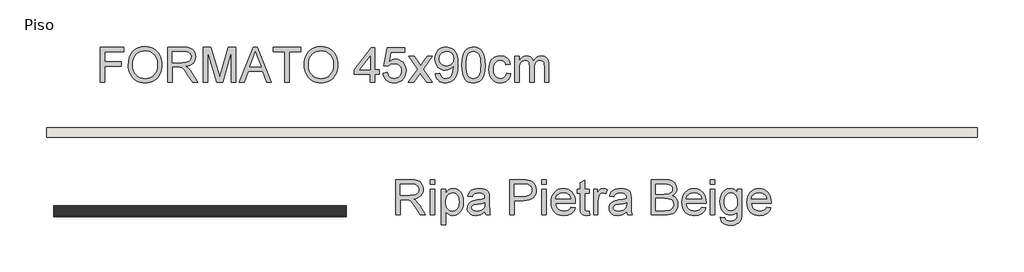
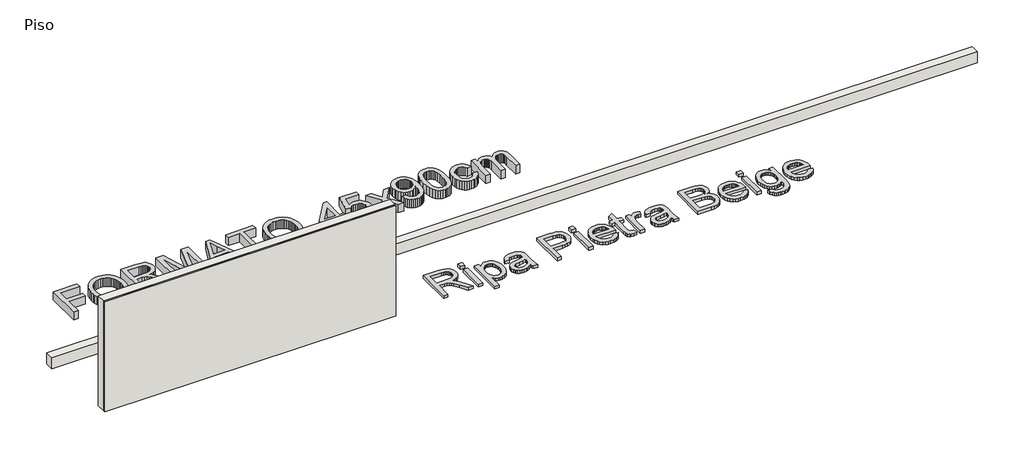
# One storey: 3 walls, 2 proxies.
"""IFC4 building model written with IfcOpenShell, lengths in millimetres."""

from ifc_helpers import new_model, si_unit, origin, origin_with_axes, place, context, project, spatial, polyline, outline, extrude, element, save

model = new_model("IFC4")

# Units and contexts
model_context = context("Model", 3, world=origin())
ifc_project = project(units=[si_unit("LENGTHUNIT", "METRE", prefix="MILLI")], contexts=[model_context])

# Site, building, storey
site = spatial("IfcSite", under=ifc_project)
building = spatial("IfcBuilding", under=site)
storey = spatial("IfcBuildingStorey", under=building, Name="Piso", Elevation=0.0)

# Proxies
placement = place(None, origin())
element("IfcBuildingElementProxy", 1, Name="600mm Arial", ObjectType="600mm Arial", at=placement, inside=storey, context=model_context, shape_type="SweptSolid", body=[
    extrude(outline(polyline([(92602.0859381, 2702.6380465), (92602.0859381, 3305.3759074), (93007.0504384, 3305.3759074), (93007.0504384, 3230.0336748), (92677.4281707, 3230.0336748), (92677.4281707, 3051.0958724), (92959.961543, 3051.0958724), (92959.961543, 2975.7536397), (92677.4281707, 2975.7536397), (92677.4281707, 2702.6380465), (92602.0859381, 2702.6380465)])), origin_with_axes(), (0.0, 0.0, 1.0), 150.0),
    extrude(outline(polyline([(93082.392671, 2996.0607259), (93087.4142602, 3066.7584483), (93102.4790279, 3129.3443727), (93127.5869741, 3183.8184992), (93143.9071391, 3208.0136381), (93162.7380987, 3230.1808276), (93205.8262774, 3267.1989534), (93254.7453857, 3293.6404718), (93309.4954237, 3309.5053828), (93370.0763912, 3314.7936865), (93410.6261841, 3312.310483), (93449.134232, 3304.8608726), (93485.6005348, 3292.4448553), (93520.0250925, 3275.062431), (93551.4422148, 3253.2378317), (93578.8862117, 3227.495289), (93602.357083, 3197.8348032), (93621.8548287, 3164.2563741), (93637.1771138, 3127.5233569), (93648.1216032, 3088.3991067), (93654.6882968, 3046.8836235), (93656.8771947, 3002.9769074), (93654.5733337, 2958.4907771), (93647.6617507, 2916.4142739), (93636.1424457, 2876.7473978), (93620.0154187, 2839.4901487), (93599.6623474, 2805.6266111), (93575.4649091, 2776.1408692), (93547.423104, 2751.032923), (93515.5369321, 2730.3027726), (93481.0617906, 2714.0791766), (93445.2530769, 2702.4908937), (93408.110791, 2695.537924), (93369.6349328, 2693.2202674), (93328.3769671, 2695.7816458), (93289.3630815, 2703.465781), (93252.5932761, 2716.272673), (93218.0675508, 2734.2023217), (93186.6872166, 2756.56035), (93159.3535844, 2782.6523805), (93136.0666541, 2812.4784132), (93116.8264257, 2846.0384482), (93101.761658, 2881.9851177), (93091.0011097, 2918.9710538), (93084.5447807, 2956.9962565), (93082.392671, 2996.0607259)]), holes=[polyline([(93157.7349036, 2995.3249619), (93161.5010955, 2945.375784), (93172.7996713, 2901.0368065), (93191.6306309, 2862.3080295), (93217.9939744, 2829.1894529), (93250.0410947, 2802.665161), (93285.9233848, 2783.7192383), (93325.6408447, 2772.3516846), (93369.1934744, 2768.5625001), (93413.4910652, 2772.3884728), (93453.6775746, 2783.8663911), (93489.7530028, 2802.9962548), (93521.7173496, 2829.7780641), (93547.8875551, 2863.5956165), (93566.5805589, 2903.8327097), (93577.7963613, 2950.4893437), (93581.5349621, 3003.5655186), (93579.9346754, 3038.0452586), (93575.1338153, 3070.2625243), (93567.1323819, 3100.2173158), (93555.9303752, 3127.9096329), (93541.6519553, 3152.9761924), (93524.4212823, 3175.0537106), (93504.2383563, 3194.1421877), (93481.1031774, 3210.2416235), (93455.7331153, 3223.0209243), (93428.84554, 3232.1489963), (93400.4404514, 3237.6258395), (93370.5178496, 3239.4514539), (93328.4781346, 3235.9335823), (93289.4734461, 3225.3799676), (93253.503784, 3207.7906097), (93220.5691484, 3183.1655086), (93193.0791663, 3150.318245), (93173.4434648, 3108.0623993), (93161.6620439, 3056.3979716), (93157.7349036, 2995.3249619)])]), origin_with_axes(), (0.0, 0.0, 1.0), 150.0),
    extrude(outline(polyline([(93760.4727645, 2702.6380465), (93760.4727645, 3305.3759074), (94020.1974531, 3305.3759074), (94090.0030617, 3301.3108114), (94140.7891711, 3289.1155232), (94160.3880844, 3279.4218327), (94177.9084644, 3266.6011451), (94193.3503112, 3250.6534606), (94206.7136247, 3231.5787792), (94217.4971656, 3210.4025718), (94225.1996949, 3188.1503097), (94229.8212125, 3164.8219926), (94231.3617183, 3140.4176208), (94228.809537, 3109.4603509), (94221.152993, 3081.0414668), (94208.3920863, 3055.1609684), (94190.5268169, 3031.8188558), (94167.3272585, 3011.76009), (94138.563485, 2995.7296321), (94104.2354964, 2983.727482), (94064.3432925, 2975.7536397), (94089.1753272, 2959.5300438), (94107.1647568, 2943.527177), (94138.0300562, 2906.9229184), (94168.233168, 2865.9776524), (94268.738529, 2702.6380465), (94181.1826142, 2702.6380465), (94102.7501728, 2827.5707721), (94046.0963456, 2910.2706446), (94025.0351013, 2934.3853094), (94006.2915137, 2949.3397125), (93970.4598074, 2963.6871103), (93926.7554263, 2966.3358607), (93835.8149971, 2966.3358607), (93835.8149971, 2702.6380465), (93760.4727645, 2702.6380465)]), holes=[polyline([(93835.8149971, 3041.6780933), (94004.4521037, 3041.6780933), (94052.8837684, 3044.3452377), (94090.4629142, 3052.3466711), (94118.7530396, 3066.2158224), (94139.3176431, 3086.4861203), (94151.8440251, 3111.0054553), (94156.0194857, 3137.6217176), (94154.0283244, 3156.8895371), (94148.0548405, 3174.3731289), (94138.099034, 3190.0724931), (94124.1609049, 3203.9876296), (94105.9185565, 3215.3827744), (94083.050092, 3223.5221635), (94055.5555114, 3228.405797), (94023.4348147, 3230.0336748), (93835.8149971, 3230.0336748), (93835.8149971, 3041.6780933)])]), origin_with_axes(), (0.0, 0.0, 1.0), 150.0),
    extrude(outline(polyline([(94363.2106254, 2702.6380465), (94363.2106254, 3305.3759074), (94492.8522405, 3305.3759074), (94616.1662853, 2880.5457794), (94641.0351082, 2791.8126422), (94667.9640702, 2887.9034193), (94789.2179758, 3305.3759074), (94918.8595909, 3305.3759074), (94918.8595909, 2702.6380465), (94843.5173583, 2702.6380465), (94843.5173583, 3230.0336748), (94692.0971291, 2702.6380465), (94589.9730872, 2702.6380465), (94438.552858, 3230.0336748), (94438.552858, 2702.6380465), (94363.2106254, 2702.6380465)])), origin_with_axes(), (0.0, 0.0, 1.0), 150.0),
    extrude(outline(polyline([(94980.5166133, 2702.6380465), (95221.1114382, 3305.3759074), (95285.2700581, 3305.3759074), (95525.864883, 2702.6380465), (95446.2552192, 2702.6380465), (95377.2405569, 2890.9936281), (95128.9937866, 2890.9936281), (95060.1262771, 2702.6380465), (94980.5166133, 2702.6380465)]), holes=[polyline([(95156.6585126, 2966.3358607), (95349.7229837, 2966.3358607), (95295.4236012, 3114.5187283), (95253.1907481, 3230.0336748), (95215.6667846, 3127.4681746), (95156.6585126, 2966.3358607)])]), origin_with_axes(), (0.0, 0.0, 1.0), 150.0),
    extrude(outline(polyline([(95757.0419287, 2702.6380465), (95757.0419287, 3230.0336748), (95559.2685681, 3230.0336748), (95559.2685681, 3305.3759074), (96030.1575219, 3305.3759074), (96030.1575219, 3230.0336748), (95832.3841613, 3230.0336748), (95832.3841613, 2702.6380465), (95757.0419287, 2702.6380465)])), origin_with_axes(), (0.0, 0.0, 1.0), 150.0),
    extrude(outline(polyline([(96086.6641964, 2996.0607259), (96091.6857856, 3066.7584483), (96106.7505533, 3129.3443727), (96131.8584995, 3183.8184992), (96148.1786645, 3208.0136381), (96167.0096242, 3230.1808276), (96210.0978028, 3267.1989534), (96259.0169111, 3293.6404718), (96313.7669491, 3309.5053828), (96374.3479166, 3314.7936865), (96414.8977096, 3312.310483), (96453.4057574, 3304.8608726), (96489.8720602, 3292.4448553), (96524.2966179, 3275.062431), (96555.7137403, 3253.2378317), (96583.1577371, 3227.495289), (96606.6286084, 3197.8348032), (96626.1263541, 3164.2563741), (96641.4486392, 3127.5233569), (96652.3931286, 3088.3991067), (96658.9598222, 3046.8836235), (96661.1487201, 3002.9769074), (96658.8448591, 2958.4907771), (96651.9332761, 2916.4142739), (96640.4139711, 2876.7473978), (96624.2869442, 2839.4901487), (96603.9338728, 2805.6266111), (96579.7364345, 2776.1408692), (96551.6946295, 2751.032923), (96519.8084575, 2730.3027726), (96485.3333161, 2714.0791766), (96449.5246024, 2702.4908937), (96412.3823164, 2695.537924), (96373.9064582, 2693.2202674), (96332.6484925, 2695.7816458), (96293.6346069, 2703.465781), (96256.8648015, 2716.272673), (96222.3390762, 2734.2023217), (96190.958742, 2756.56035), (96163.6251098, 2782.6523805), (96140.3381795, 2812.4784132), (96121.0979512, 2846.0384482), (96106.0331835, 2881.9851177), (96095.2726351, 2918.9710538), (96088.8163061, 2956.9962565), (96086.6641964, 2996.0607259)]), holes=[polyline([(96162.006429, 2995.3249619), (96165.7726209, 2945.375784), (96177.0711967, 2901.0368065), (96195.9021564, 2862.3080295), (96222.2654998, 2829.1894529), (96254.3126201, 2802.665161), (96290.1949102, 2783.7192383), (96329.9123701, 2772.3516846), (96373.4649998, 2768.5625001), (96417.7625906, 2772.3884728), (96457.9491, 2783.8663911), (96494.0245282, 2802.9962548), (96525.988875, 2829.7780641), (96552.1590805, 2863.5956165), (96570.8520844, 2903.8327097), (96582.0678867, 2950.4893437), (96585.8064875, 3003.5655186), (96584.2062008, 3038.0452586), (96579.4053407, 3070.2625243), (96571.4039074, 3100.2173158), (96560.2019006, 3127.9096329), (96545.9234807, 3152.9761924), (96528.6928077, 3175.0537106), (96508.5098818, 3194.1421877), (96485.3747028, 3210.2416235), (96460.0046407, 3223.0209243), (96433.1170654, 3232.1489963), (96404.7119768, 3237.6258395), (96374.789375, 3239.4514539), (96332.74966, 3235.9335823), (96293.7449715, 3225.3799676), (96257.7753094, 3207.7906097), (96224.8406738, 3183.1655086), (96197.3506917, 3150.318245), (96177.7149902, 3108.0623993), (96165.9335693, 3056.3979716), (96162.006429, 2995.3249619)])]), origin_with_axes(), (0.0, 0.0, 1.0), 150.0),
    extrude(outline(polyline([(97216.7976856, 2702.6380465), (97216.7976856, 2843.9047327), (96943.6820924, 2843.9047327), (96943.6820924, 2919.2469653), (97235.6332437, 3295.9581283), (97292.1399182, 3295.9581283), (97292.1399182, 2919.2469653), (97367.4821508, 2919.2469653), (97367.4821508, 2843.9047327), (97292.1399182, 2843.9047327), (97292.1399182, 2702.6380465), (97216.7976856, 2702.6380465)]), holes=[polyline([(97216.7976856, 2919.2469653), (97216.7976856, 3152.0426918), (97036.3883552, 2919.2469653), (97216.7976856, 2919.2469653)])]), origin_with_axes(), (0.0, 0.0, 1.0), 150.0),
    extrude(outline(polyline([(97433.4066044, 2862.7402908), (97508.748837, 2872.1580699), (97514.3774315, 2847.937639), (97522.5812, 2826.9269786), (97533.3601424, 2809.1260886), (97546.7142589, 2794.5349689), (97562.6159581, 2783.1720138), (97581.037649, 2775.0556173), (97601.9793316, 2770.1857794), (97625.4410058, 2768.5625001), (97654.1358015, 2770.8203758), (97679.4460827, 2777.594003), (97701.3718496, 2788.8833818), (97719.9131022, 2804.688512), (97734.6559732, 2824.2276445), (97745.1865953, 2846.7190299), (97751.5049685, 2872.1626684), (97753.611093, 2900.5585599), (97751.6383258, 2927.3955515), (97745.7200242, 2951.2526989), (97735.8561882, 2972.1300021), (97722.0468178, 2990.0274612), (97704.2459277, 3004.384056), (97682.4075328, 3014.6387666), (97656.531633, 3020.791593), (97626.6182282, 3022.8425351), (97590.069152, 3019.5683854), (97560.4730455, 3009.7459361), (97536.8366273, 2994.6995625), (97518.166616, 2975.7536397), (97442.8243834, 2985.1714188), (97508.748837, 3295.9581283), (97800.6999883, 3295.9581283), (97800.6999883, 3220.6158957), (97569.6700954, 3220.6158957), (97537.4436326, 3054.6275395), (97564.0323038, 3073.6838269), (97591.2647685, 3087.2954607), (97619.1410267, 3095.462441), (97647.6610783, 3098.1847677), (97684.3527088, 3094.8094504), (97718.0552981, 3084.6834985), (97748.7688462, 3067.806912), (97776.4933531, 3044.1796908), (97799.444591, 3015.2457719), (97815.8383324, 2982.4490921), (97825.6745773, 2945.7896512), (97828.9533256, 2905.2674495), (97826.0010726, 2866.2351698), (97817.1443135, 2829.9252169), (97802.3830485, 2796.3375907), (97781.7172774, 2765.4722913), (97750.4105196, 2733.8620309), (97713.8798375, 2711.2832734), (97672.125231, 2697.7360189), (97625.1467002, 2693.2202674), (97586.2661719, 2696.1219367), (97551.1472369, 2704.8269444), (97519.7898953, 2719.3352906), (97492.1941472, 2739.6469752), (97469.2337122, 2764.7503229), (97451.78231, 2793.633658), (97439.8399407, 2826.2969807), (97433.4066044, 2862.7402908)])), origin_with_axes(), (0.0, 0.0, 1.0), 150.0),
    extrude(outline(polyline([(97866.6244419, 2702.6380465), (98027.609603, 2925.1330772), (97876.0422209, 3145.2736631), (97966.6883446, 3145.2736631), (98039.8232852, 3039.3236485), (98073.9627344, 2989.2916972), (98103.5404468, 3030.200175), (98186.8289305, 3145.2736631), (98277.4750541, 3145.2736631), (98118.2557266, 2925.1330772), (98271.5889422, 2702.6380465), (98180.9428186, 2702.6380465), (98088.6780142, 2836.39994), (98071.7554424, 2860.8273045), (97957.2705655, 2702.6380465), (97866.6244419, 2702.6380465)])), origin_with_axes(), (0.0, 0.0, 1.0), 150.0),
    extrude(outline(polyline([(98328.0956166, 2853.3225117), (98403.4378492, 2862.7402908), (98416.3137191, 2819.9740089), (98425.7866804, 2803.7090262), (98437.2829928, 2790.856149), (98450.6738974, 2781.1026776), (98465.8306356, 2774.1359123), (98501.4416127, 2768.5625001), (98533.392164, 2772.1493495), (98562.4364475, 2782.9098979), (98586.5695064, 2799.6669228), (98603.7863838, 2821.2432018), (98616.8278005, 2849.6069036), (98628.4344775, 2886.7261969), (98636.6014578, 2929.326932), (98639.3237845, 2974.134959), (98638.8823261, 2988.8502388), (98612.7810986, 2956.991658), (98578.6232553, 2931.7549531), (98538.8736058, 2915.3106279), (98495.9969592, 2909.8291862), (98460.2066396, 2913.1769124), (98427.2949966, 2923.2200908), (98397.2620302, 2939.9587216), (98370.1077405, 2963.3928047), (98347.6071579, 2992.2991325), (98331.5353133, 3025.4544973), (98321.8922065, 3062.8588992), (98318.6778375, 3104.5123381), (98322.0485563, 3147.5545315), (98332.1607127, 3186.182141), (98349.0143066, 3220.3951665), (98372.609338, 3250.1936081), (98401.281141, 3274.3358641), (98433.3650495, 3291.5803326), (98468.8610636, 3301.9270137), (98507.7691831, 3305.3759074), (98536.4961684, 3303.4077387), (98563.9631578, 3297.5032327), (98590.1701515, 3287.6623894), (98615.1171493, 3273.8852086), (98637.9718182, 3256.4659962), (98657.9018253, 3235.6990575), (98674.9071705, 3211.5843928), (98688.9878539, 3184.1220018), (98700.0289123, 3151.7299921), (98707.9153825, 3112.8264711), (98712.6472647, 3067.4114388), (98714.2245588, 3015.4848952), (98712.6518632, 2960.950988), (98707.9337766, 2912.2756015), (98700.070299, 2869.4587358), (98689.0614303, 2832.5003908), (98674.9485572, 2800.4992558), (98657.7730666, 2772.5540197), (98637.5349583, 2748.6646826), (98614.2342325, 2728.8312446), (98588.3399385, 2713.2514421), (98560.3211261, 2702.1230117), (98530.1777951, 2695.4459535), (98497.9099456, 2693.2202674), (98464.0739991, 2695.8460252), (98433.4938082, 2703.7232984), (98406.169373, 2716.8520871), (98382.1006935, 2735.2323913), (98361.8947749, 2758.3675703), (98346.1586226, 2785.7609833), (98334.8922365, 2817.4126305), (98328.0956166, 2853.3225117)]), holes=[polyline([(98638.8823261, 3106.2781716), (98636.8497781, 3133.2807101), (98630.7521341, 3157.3401926), (98620.5893939, 3178.4566191), (98606.3615578, 3196.6299896), (98588.7676014, 3211.2441019), (98568.5065005, 3221.6827535), (98545.5782551, 3227.9459445), (98519.9828653, 3230.0336748), (98493.5689381, 3227.7849961), (98469.6566084, 3221.03896), (98448.2458762, 3209.7955666), (98429.3367417, 3194.0548157), (98413.8856979, 3174.7364124), (98402.849238, 3152.7600617), (98396.2273621, 3128.1257636), (98394.0200702, 3100.8335181), (98396.1078005, 3076.3555699), (98402.3709914, 3054.2780516), (98412.8096431, 3034.6009634), (98427.4237553, 3017.3243052), (98445.6063229, 3003.2574174), (98466.7503406, 2993.2096404), (98490.8558083, 2987.1809742), (98517.9227261, 2985.1714188), (98543.1640295, 2987.1809742), (98566.0600852, 2993.2096404), (98586.6108932, 3003.2574174), (98604.8164534, 3017.3243052), (98619.7202727, 3034.9412542), (98630.365858, 3055.639215), (98636.7532091, 3079.4181875), (98638.8823261, 3106.2781716)])]), origin_with_axes(), (0.0, 0.0, 1.0), 150.0),
    extrude(outline(polyline([(98780.1490123, 2999.1509346), (98785.6856363, 3095.6279879), (98792.6064164, 3136.5410643), (98802.2955084, 3172.5705072), (98814.7115257, 3204.0106222), (98829.8130816, 3231.1557149), (98847.6001761, 3254.0057853), (98868.0728091, 3272.5608335), (98891.2999586, 3286.9174283), (98917.3506024, 3297.1721389), (98946.2247405, 3303.3249653), (98977.9223729, 3305.3759074), (99024.3490807, 3300.5198651), (99065.9197461, 3285.9517381), (99100.6845947, 3262.2417435), (99126.6938518, 3229.9600984), (99146.3387503, 3189.3827143), (99162.0105233, 3140.7855028), (99172.274431, 3079.0732981), (99175.6957335, 2999.1509346), (99170.2142918, 2903.2257044), (99163.3624896, 2862.4505838), (99153.7699666, 2826.4671261), (99141.4505183, 2795.0132155), (99126.4179403, 2767.8267361), (99108.6722325, 2744.9076878), (99088.2133951, 2726.2560706), (99064.9586544, 2711.8029067), (99038.8252372, 2701.4792182), (99009.8131434, 2695.2850051), (98977.9223729, 2693.2202674), (98936.4252838, 2696.8071169), (98899.6370843, 2707.5676653), (98867.5577743, 2725.5019125), (98840.1873539, 2750.6098587), (98813.9205795, 2795.9972999), (98795.1585977, 2852.5499596), (98783.9014086, 2920.2678378), (98780.1490123, 2999.1509346)]), holes=[polyline([(98855.4912449, 2999.2980874), (98857.6985369, 2933.8012967), (98864.3204128, 2880.7849027), (98875.3568726, 2840.2489053), (98890.8079164, 2812.1933047), (98909.4963218, 2793.1048277), (98930.2448663, 2779.4702012), (98953.05355, 2771.2894254), (98977.9223729, 2768.5625001), (99002.7911958, 2771.2986224), (99025.5998795, 2779.5069894), (99046.348424, 2793.1876011), (99065.0368294, 2812.3404575), (99080.4878732, 2840.4420434), (99091.524333, 2880.9688437), (99098.1462089, 2933.9208584), (99100.3535009, 2999.2980874), (99098.2197853, 3063.0612342), (99091.8186386, 3115.1441277), (99081.1500607, 3155.5467678), (99066.2140517, 3184.2691546), (99047.8383461, 3204.2911322), (99026.8506783, 3218.5925448), (99003.2510483, 3227.1733923), (98977.0394561, 3230.0336748), (98952.2993919, 3227.5136831), (98929.8769843, 3219.9537081), (98909.7722333, 3207.3537498), (98891.9851388, 3189.7138081), (98876.0190602, 3158.4438385), (98864.6147184, 3116.2845619), (98857.7721133, 3063.2359782), (98855.4912449, 2999.2980874)])]), origin_with_axes(), (0.0, 0.0, 1.0), 150.0),
    extrude(outline(polyline([(99542.9891175, 2862.7402908), (99618.3313501, 2853.3225117), (99610.1367787, 2817.7713154), (99597.3252882, 2786.3128063), (99579.8968787, 2758.9469844), (99557.8515501, 2735.6738497), (99532.1182045, 2717.1004075), (99503.625744, 2703.833663), (99472.3741685, 2695.8736163), (99438.3634781, 2693.2202674), (99396.1076324, 2696.92208), (99358.2203854, 2708.0275178), (99324.7017371, 2726.5365806), (99295.5516875, 2752.4492687), (99271.9566561, 2785.2781382), (99255.1030622, 2824.5357456), (99244.9909058, 2870.2220909), (99241.620187, 2922.337174), (99247.3775403, 2989.3836677), (99254.5742318, 3019.5545898), (99264.6495999, 3047.4906288), (99277.6726226, 3072.6307646), (99293.7122776, 3094.4139773), (99312.7685649, 3112.8402667), (99334.8414846, 3127.9096329), (99358.9331568, 3139.6266745), (99384.0457015, 3147.9959899), (99410.1791187, 3153.0175791), (99437.3334085, 3154.6914422), (99470.7600863, 3152.3921797), (99500.9953877, 3145.4943923), (99528.0393129, 3133.99808), (99551.8918618, 3117.9032427), (99572.1483641, 3097.5777624), (99588.4041498, 3073.3895213), (99600.6592188, 3045.3385191), (99608.913571, 3013.4247561), (99533.5713384, 3004.006977), (99519.9045223, 3036.8772332), (99498.6225489, 3060.440075), (99470.9026405, 3074.6219259), (99437.9220197, 3079.3492096), (99412.3220313, 3077.022356), (99389.2328376, 3070.0417951), (99368.6544385, 3058.407527), (99350.586834, 3042.1195517), (99335.8761527, 3020.8007901), (99325.3685232, 2994.0741631), (99319.0639456, 2961.9396708), (99316.9624197, 2924.3973132), (99319.0179603, 2886.289337), (99325.1845822, 2853.7823642), (99335.4622855, 2826.8763948), (99349.85107, 2805.5714288), (99367.5599896, 2789.3800225), (99387.7980978, 2777.8147322), (99410.5653948, 2770.8755581), (99435.8618805, 2768.5625001), (99474.8757661, 2774.3382474), (99491.7477541, 2781.5579315), (99506.8631056, 2791.6654894), (99519.7987562, 2804.7712854), (99530.1316418, 2820.9856844), (99537.8617622, 2840.3086862), (99542.9891175, 2862.7402908)])), origin_with_axes(), (0.0, 0.0, 1.0), 150.0),
    extrude(outline(polyline([(99684.2558036, 2702.6380465), (99684.2558036, 3145.2736631), (99759.5980363, 3145.2736631), (99759.5980363, 3072.4330281), (99782.2595672, 3105.8918955), (99811.3958212, 3132.1034877), (99846.0135169, 3149.0444536), (99885.119373, 3154.6914422), (99927.0211323, 3148.934089), (99944.854212, 3141.7373974), (99960.6087584, 3131.6620293), (99985.6983105, 3104.0156974), (100002.1058475, 3067.1355273), (100029.5682384, 3105.4412401), (100060.8933903, 3132.8024635), (100096.0813031, 3149.2191975), (100135.1319769, 3154.6914422), (100165.293702, 3152.4151724), (100191.7674101, 3145.5863628), (100214.5531012, 3134.2050136), (100233.6507752, 3118.2711247), (100248.7477326, 3097.6007551), (100259.5312736, 3072.0099638), (100266.0013982, 3041.4987508), (100268.1581064, 3006.0671161), (100268.1581064, 2702.6380465), (100192.8158738, 2702.6380465), (100192.8158738, 2973.6935006), (100191.0684343, 3011.2726464), (100185.8261159, 3036.6013217), (100176.0036666, 3053.9469578), (100160.5158346, 3067.5769857), (100140.5950246, 3076.4061536), (100117.4736412, 3079.3492096), (100096.1226899, 3077.4638144), (100076.6571338, 3071.8076287), (100059.076973, 3062.3806526), (100043.3822073, 3049.182886), (100030.4741478, 3031.8280529), (100021.2541053, 3009.9298771), (100015.7220798, 2983.4883587), (100013.8780713, 2952.5034976), (100013.8780713, 2702.6380465), (99938.5358387, 2702.6380465), (99938.5358387, 2982.0812101), (99934.1764371, 3024.6819451), (99928.727185, 3041.4021818), (99921.0982321, 3055.0689979), (99910.9860758, 3065.6915905), (99898.0872133, 3073.2791567), (99882.4016448, 3077.8316964), (99863.9293701, 3079.3492096), (99834.9034807, 3075.3025076), (99808.1584596, 3063.1624018), (99786.0855399, 3043.2231977), (99771.0759545, 3015.7792008), (99762.4675158, 2977.7034143), (99759.5980363, 2925.8688412), (99759.5980363, 2702.6380465), (99684.2558036, 2702.6380465)])), origin_with_axes(), (0.0, 0.0, 1.0), 150.0),
])
element("IfcBuildingElementProxy", 2, Name="600mm Arial", ObjectType="600mm Arial", at=placement, inside=storey, context=model_context, shape_type="SweptSolid", body=[
    extrude(outline(polyline([(97649.031951, 437.9785976), (97649.031951, 1040.7164585), (97908.7566396, 1040.7164585), (97978.5622482, 1036.6513625), (98029.3483576, 1024.4560743), (98048.9472709, 1014.7623838), (98066.467651, 1001.9416962), (98081.9094977, 985.9940117), (98095.2728112, 966.9193303), (98106.0563522, 945.7431229), (98113.7588814, 923.4908608), (98118.380399, 900.1625437), (98119.9209048, 875.7581719), (98117.3687235, 844.800902), (98109.7121795, 816.3820179), (98096.9512728, 790.5015195), (98079.0860034, 767.1594069), (98055.8864451, 747.1006411), (98027.1226716, 731.0701832), (97992.7946829, 719.0680331), (97952.902479, 711.0941908), (97977.7345137, 694.8705949), (97995.7239433, 678.8677281), (98026.5892427, 642.2634695), (98056.7923545, 601.3182035), (98157.2977156, 437.9785976), (98069.7418007, 437.9785976), (97991.3093593, 562.9113232), (97934.6555321, 645.6111957), (97913.5942879, 669.7258605), (97894.8507002, 684.6802636), (97859.0189939, 699.0276614), (97815.3146128, 701.6764118), (97724.3741836, 701.6764118), (97724.3741836, 437.9785976), (97649.031951, 437.9785976)]), holes=[polyline([(97724.3741836, 777.0186444), (97893.0112902, 777.0186444), (97941.4429549, 779.6857888), (97979.0221007, 787.6872222), (98007.3122261, 801.5563735), (98027.8768297, 821.8266714), (98040.4032116, 846.3460064), (98044.5786722, 872.9622687), (98042.5875109, 892.2300882), (98036.614027, 909.71368), (98026.6582205, 925.4130442), (98012.7200915, 939.3281807), (97994.477743, 950.7233255), (97971.6092785, 958.8627146), (97944.1146979, 963.7463481), (97911.9940012, 965.3742259), (97724.3741836, 965.3742259), (97724.3741836, 777.0186444)])]), origin_with_axes(), (0.0, 0.0, 1.0), 50.0),
    extrude(outline(polyline([(98242.3520328, 965.3742259), (98242.3520328, 1040.7164585), (98317.6942655, 1040.7164585), (98317.6942655, 965.3742259), (98242.3520328, 965.3742259)])), origin_with_axes(), (0.0, 0.0, 1.0), 50.0),
    extrude(outline(polyline([(98242.3520328, 437.9785976), (98242.3520328, 880.6142142), (98317.6942655, 880.6142142), (98317.6942655, 437.9785976), (98242.3520328, 437.9785976)])), origin_with_axes(), (0.0, 0.0, 1.0), 50.0),
    extrude(outline(polyline([(98430.7076144, 268.4585742), (98430.7076144, 880.6142142), (98506.049847, 880.6142142), (98506.049847, 806.7435096), (98530.6243643, 843.1822212), (98558.1419375, 869.2098724), (98590.2212475, 884.8264631), (98628.480975, 890.0319933), (98654.7569465, 888.2109774), (98679.4326313, 882.7479298), (98702.5080295, 873.6428504), (98723.9831409, 860.8957393), (98743.3889162, 844.8376902), (98760.2563057, 825.7997969), (98774.5853094, 803.7820595), (98786.3759273, 778.784478), (98802.1580649, 723.2710849), (98807.4187774, 662.6809203), (98801.4774832, 598.2463888), (98794.0508654, 568.5813044), (98783.6536005, 540.6176743), (98770.4282428, 515.0866638), (98754.5173465, 492.7194385), (98735.9209117, 473.5159984), (98714.6389383, 457.4763434), (98691.7152914, 444.8258013), (98668.1938364, 435.7896998), (98644.0745731, 430.3680389), (98619.3575015, 428.5608185), (98584.7214117, 433.3984668), (98553.80093, 447.9114115), (98527.3318204, 469.8187843), (98506.049847, 496.8397169), (98506.049847, 268.4585742), (98430.7076144, 268.4585742)]), holes=[polyline([(98506.049847, 655.7647388), (98508.0869935, 619.4547858), (98514.1984332, 588.2216045), (98524.3841659, 562.0651946), (98538.6441918, 540.9855563), (98555.8104854, 524.7619603), (98574.7150214, 513.1736774), (98595.3577998, 506.2207077), (98617.7388207, 503.9030512), (98640.4417384, 506.3034812), (98661.4615958, 513.5047712), (98680.7983932, 525.5069213), (98698.4521305, 542.3099315), (98713.1628117, 564.1529249), (98723.6704412, 591.275025), (98729.9750189, 623.6762317), (98732.0765448, 661.3565451), (98730.0256027, 697.3537983), (98723.8727763, 728.5317974), (98713.6180657, 754.8905424), (98699.2614709, 776.4300332), (98682.0537905, 793.168664), (98663.2458235, 805.1248288), (98642.8375698, 812.2985277), (98620.8290295, 814.6897607), (98598.889467, 812.1467764), (98578.2466885, 804.5178235), (98558.9006941, 791.8029021), (98540.8514837, 774.002012), (98525.6257677, 751.3542767), (98514.7502562, 724.0988194), (98508.2249493, 692.2356401), (98506.049847, 655.7647388)])]), origin_with_axes(), (0.0, 0.0, 1.0), 50.0),
    extrude(outline(polyline([(99174.7121614, 494.4852721), (99138.7149082, 463.6199727), (99101.6507972, 443.4232512), (99062.6736998, 432.2764267), (99020.9374874, 428.5608185), (98987.391248, 430.7957017), (98957.974484, 437.500351), (98932.6871953, 448.6747666), (98911.5293821, 464.3189485), (98894.822941, 483.4396152), (98882.8897687, 505.0434853), (98875.7298654, 529.130559), (98873.343231, 555.7008361), (98876.9484745, 586.9340175), (98887.7642052, 615.2977193), (98904.4476537, 639.577931), (98925.6560507, 658.5606419), (98950.5800559, 672.9080397), (98978.4103288, 683.282312), (99043.5990183, 694.6130775), (99120.6335081, 706.5324541), (99174.270703, 720.5119699), (99174.7121614, 737.2873889), (99169.5250253, 770.9118033), (99163.0411051, 783.3646088), (99153.9636169, 792.9111466), (99138.2734498, 802.4392902), (99119.1619801, 809.2451072), (99070.6751332, 814.6897607), (99025.7935298, 811.066123), (98994.4499838, 800.1952101), (98973.0760399, 780.090459), (98958.1032427, 748.7653072), (98882.76101, 758.1830862), (98895.839215, 799.3858697), (98915.3553548, 831.7594853), (98943.1304455, 856.5179435), (98980.9855028, 874.8752551), (99027.2834519, 886.2428087), (99080.3872179, 890.0319933), (99131.3204801, 886.6842671), (99171.6955291, 876.6410887), (99202.1377642, 861.5395328), (99223.2725848, 843.0166743), (99237.2888888, 820.1160201), (99246.3755741, 791.881077), (99250.054394, 725.9566235), (99250.054394, 632.2202911), (99253.8803668, 501.3278772), (99259.5457495, 468.9726557), (99268.8899522, 437.9785976), (99193.5477196, 437.9785976), (99181.4811901, 464.1717957), (99174.7121614, 494.4852721)]), holes=[polyline([(99174.7121614, 645.1697373), (99124.0915989, 632.6249613), (99053.1639502, 622.066748), (98988.3431427, 609.8530658), (98971.4757532, 601.5021445), (98958.9861594, 589.987438), (98951.2606376, 576.1918632), (98948.6854636, 560.9983368), (98954.295664, 538.5943233), (98971.1262653, 520.2370117), (98998.8093854, 507.9865413), (99036.9771424, 503.9030512), (99077.4441619, 508.4096056), (99113.2022918, 521.9292689), (99142.191393, 541.850079), (99162.3513264, 565.5600736), (99171.2908589, 589.987438), (99174.270703, 623.8325816), (99174.7121614, 645.1697373)])]), origin_with_axes(), (0.0, 0.0, 1.0), 50.0),
    extrude(outline(polyline([(99598.5122199, 437.9785976), (99598.5122199, 1040.7164585), (99821.8901673, 1040.7164585), (99873.9086815, 1039.2817187), (99911.9476798, 1034.9774994), (99952.1019995, 1024.2537392), (99985.1561968, 1006.7977386), (100011.7724591, 981.8185511), (100032.6129742, 948.5252305), (100046.0774552, 909.2538275), (100050.5656155, 866.3403928), (100047.5351876, 829.3406611), (100038.4439038, 795.3023795), (100023.2917641, 764.225548), (100002.0787686, 736.1101665), (99972.9563101, 712.8048421), (99934.0757818, 696.1581818), (99885.4371835, 686.1701857), (99827.0405153, 682.8408536), (99673.8544525, 682.8408536), (99673.8544525, 437.9785976), (99598.5122199, 437.9785976)]), holes=[polyline([(99673.8544525, 758.1830862), (99831.4550992, 758.1830862), (99867.6914757, 759.9121316), (99898.2624695, 765.0992677), (99923.1680806, 773.7444946), (99942.408309, 785.8478123), (99956.7649038, 801.0873239), (99967.0196144, 819.1411328), (99973.1724408, 840.009239), (99975.2233829, 863.6916424), (99970.3857347, 897.536786), (99955.87279, 926.0844288), (99933.4871706, 947.5687373), (99905.0314982, 960.223878), (99875.9688206, 964.0866389), (99829.6892656, 965.3742259), (99673.8544525, 965.3742259), (99673.8544525, 758.1830862)])]), origin_with_axes(), (0.0, 0.0, 1.0), 50.0),
    extrude(outline(polyline([(100144.7434063, 965.3742259), (100144.7434063, 1040.7164585), (100220.0856389, 1040.7164585), (100220.0856389, 965.3742259), (100144.7434063, 965.3742259)])), origin_with_axes(), (0.0, 0.0, 1.0), 50.0),
    extrude(outline(polyline([(100144.7434063, 437.9785976), (100144.7434063, 880.6142142), (100220.0856389, 880.6142142), (100220.0856389, 437.9785976), (100144.7434063, 437.9785976)])), origin_with_axes(), (0.0, 0.0, 1.0), 50.0),
    extrude(outline(polyline([(100643.0027806, 569.8275047), (100716.8734852, 560.4097256), (100705.5473183, 530.8228162), (100690.2572229, 504.7491798), (100671.0031989, 482.1888164), (100647.7852465, 463.1417261), (100620.8424889, 448.012579), (100590.4140494, 437.2060454), (100556.4999279, 430.7221253), (100519.1001246, 428.5608185), (100472.3515201, 432.2902223), (100430.6980812, 443.4784335), (100394.1398079, 462.1254521), (100362.6767002, 488.2312782), (100337.375616, 521.0693448), (100319.303413, 559.9130849), (100308.4600912, 604.7624987), (100304.8456506, 655.617586), (100308.4968794, 708.1971201), (100319.4505658, 754.5410545), (100337.7067098, 794.649389), (100363.2653114, 828.5221237), (100394.6456456, 855.4326917), (100430.3669874, 874.6545259), (100470.4293366, 886.1876264), (100514.8326935, 890.0319933), (100557.805909, 886.1968235), (100596.6680433, 874.6913141), (100631.4190962, 855.5154651), (100662.0590679, 828.6692765), (100687.0704451, 794.8701182), (100704.9357145, 754.8353601), (100715.6548761, 708.5650021), (100719.22793, 656.0590444), (100718.7864716, 635.7519582), (100380.1878832, 635.7519582), (100384.5518834, 605.6868022), (100393.2292999, 579.3556484), (100406.2201329, 556.7584968), (100423.5243822, 537.8953475), (100444.1855548, 523.0237179), (100467.2471574, 512.4011253), (100492.70919, 506.0275697), (100520.5716526, 503.9030512), (100560.67079, 507.8393885), (100594.4423572, 519.6484006), (100621.886354, 540.0658513), (100643.0027806, 569.8275047)]), holes=[polyline([(100380.1878832, 711.0941908), (100643.8856974, 711.0941908), (100633.6953661, 750.8990227), (100624.9305776, 766.5524016), (100613.7193738, 779.3730892), (100593.1731643, 794.8241329), (100569.7942635, 805.8605928), (100543.5826714, 812.4824687), (100514.5383879, 814.6897607), (100488.0462857, 812.9285256), (100463.7522784, 807.6448205), (100441.6563661, 798.8386452), (100421.7585487, 786.5099999), (100405.0613046, 771.2291015), (100392.5671124, 753.5661672), (100384.2759719, 733.521197), (100380.1878832, 711.0941908)])]), origin_with_axes(), (0.0, 0.0, 1.0), 50.0),
    extrude(outline(polyline([(100954.6724069, 500.8128424), (100964.090186, 435.7713057), (100907.7306643, 428.5608185), (100871.5678642, 431.6878155), (100844.6021139, 441.0688064), (100825.5458266, 455.5265688), (100813.1114151, 473.8838804), (100806.26881, 505.4113673), (100803.9879417, 559.379656), (100803.9879417, 805.2719816), (100747.4812672, 805.2719816), (100747.4812672, 880.6142142), (100803.9879417, 880.6142142), (100803.9879417, 988.1829096), (100879.3301743, 1032.4759018), (100879.3301743, 880.6142142), (100954.6724069, 880.6142142), (100954.6724069, 805.2719816), (100879.3301743, 805.2719816), (100879.3301743, 561.586948), (100883.3032998, 522.7386093), (100896.1791697, 508.9798227), (100907.0500826, 505.172244), (100921.8573329, 503.9030512), (100954.6724069, 500.8128424)])), origin_with_axes(), (0.0, 0.0, 1.0), 50.0),
    extrude(outline(polyline([(101030.0146395, 437.9785976), (101030.0146395, 880.6142142), (101095.939093, 880.6142142), (101095.939093, 815.1312191), (101120.2928811, 853.096641), (101142.7336828, 875.4638663), (101165.2480609, 886.3899615), (101189.8225782, 890.0319933), (101227.3465417, 884.2194578), (101265.4591164, 866.7818512), (101240.2959879, 799.2387169), (101213.8084843, 810.8269997), (101187.3209806, 814.6897607), (101164.8249966, 810.9741525), (101144.7202456, 799.8273281), (101128.4782555, 782.0954159), (101117.5705543, 758.6245446), (101108.4102927, 716.5388444), (101105.3568721, 670.6271714), (101105.3568721, 437.9785976), (101030.0146395, 437.9785976)])), origin_with_axes(), (0.0, 0.0, 1.0), 50.0),
    extrude(outline(polyline([(101595.0813841, 494.4852721), (101559.0841309, 463.6199727), (101522.0200198, 443.4232512), (101483.0429225, 432.2764267), (101441.3067101, 428.5608185), (101407.7604707, 430.7957017), (101378.3437066, 437.500351), (101353.056418, 448.6747666), (101331.8986047, 464.3189485), (101315.1921636, 483.4396152), (101303.2589914, 505.0434853), (101296.0990881, 529.130559), (101293.7124536, 555.7008361), (101297.3176972, 586.9340175), (101308.1334278, 615.2977193), (101324.8168763, 639.577931), (101346.0252734, 658.5606419), (101370.9492785, 672.9080397), (101398.7795515, 683.282312), (101463.968241, 694.6130775), (101541.0027308, 706.5324541), (101594.6399257, 720.5119699), (101595.0813841, 737.2873889), (101589.894248, 770.9118033), (101583.4103278, 783.3646088), (101574.3328396, 792.9111466), (101558.6426725, 802.4392902), (101539.5312028, 809.2451072), (101491.0443559, 814.6897607), (101446.1627524, 811.066123), (101414.8192065, 800.1952101), (101393.4452625, 780.090459), (101378.4724653, 748.7653072), (101303.1302327, 758.1830862), (101316.2084376, 799.3858697), (101335.7245775, 831.7594853), (101363.4996681, 856.5179435), (101401.3547254, 874.8752551), (101447.6526745, 886.2428087), (101500.7564405, 890.0319933), (101551.6897028, 886.6842671), (101592.0647517, 876.6410887), (101622.5069868, 861.5395328), (101643.6418075, 843.0166743), (101657.6581115, 820.1160201), (101666.7447967, 791.881077), (101670.4236167, 725.9566235), (101670.4236167, 632.2202911), (101674.2495894, 501.3278772), (101679.9149722, 468.9726557), (101689.2591749, 437.9785976), (101613.9169422, 437.9785976), (101601.8504128, 464.1717957), (101595.0813841, 494.4852721)]), holes=[polyline([(101595.0813841, 645.1697373), (101544.4608216, 632.6249613), (101473.5331729, 622.066748), (101408.7123653, 609.8530658), (101391.8449759, 601.5021445), (101379.3553821, 589.987438), (101371.6298602, 576.1918632), (101369.0546863, 560.9983368), (101374.6648867, 538.5943233), (101391.495488, 520.2370117), (101419.1786081, 507.9865413), (101457.3463651, 503.9030512), (101497.8133846, 508.4096056), (101533.5715145, 521.9292689), (101562.5606157, 541.850079), (101582.720549, 565.5600736), (101591.6600815, 589.987438), (101594.6399257, 623.8325816), (101595.0813841, 645.1697373)])]), origin_with_axes(), (0.0, 0.0, 1.0), 50.0),
    extrude(outline(polyline([(102018.8814425, 437.9785976), (102018.8814425, 1040.7164585), (102248.8812659, 1040.7164585), (102312.138575, 1036.2834805), (102361.5267328, 1022.9845464), (102381.6038927, 1012.9275723), (102399.3817901, 1000.4885624), (102414.8604251, 985.6675165), (102428.0397976, 968.4644347), (102446.0844094, 930.7933184), (102452.0992801, 891.3563685), (102447.0409026, 855.0648097), (102431.8657703, 820.9437546), (102406.4635185, 791.0901307), (102370.7237827, 767.6008653), (102393.4634885, 757.9071747), (102413.4164883, 745.3072164), (102430.5827819, 729.8009903), (102444.9623693, 711.3884964), (102456.3253245, 690.6307549), (102464.441721, 668.0887856), (102469.3115589, 643.7625887), (102470.9348382, 617.6521641), (102466.5018602, 575.6216461), (102453.202926, 536.6445487), (102433.3556924, 503.498381), (102409.2778158, 478.9606519), (102379.7920739, 461.1919515), (102343.7212443, 448.3528699), (102299.8881045, 440.5721657), (102247.1154323, 437.9785976), (102018.8814425, 437.9785976)]), holes=[polyline([(102094.2236751, 795.8542025), (102231.8115413, 795.8542025), (102279.9305063, 797.4728833), (102312.1569691, 802.3289256), (102340.2815476, 813.4941442), (102360.4966633, 830.2143809), (102372.6919514, 852.2321183), (102376.7570474, 879.289839), (102372.9678629, 905.5566135), (102361.6003092, 928.4388736), (102343.1694213, 946.2995445), (102318.1902338, 957.5015512), (102279.8569299, 963.4060572), (102221.3636927, 965.3742259), (102094.2236751, 965.3742259), (102094.2236751, 795.8542025)]), polyline([(102094.2236751, 513.3208302), (102248.7341131, 513.3208302), (102304.6521764, 516.2638862), (102330.6062511, 522.7937916), (102351.961801, 532.6714232), (102369.3258311, 546.8164859), (102383.305347, 566.1486847), (102392.5207909, 589.803497), (102395.5926056, 616.9164001), (102391.987362, 648.4070989), (102381.1716314, 675.4832137), (102362.2808909, 696.6548225), (102334.450618, 710.4320033), (102295.0320622, 717.9919783), (102241.3764732, 720.5119699), (102094.2236751, 720.5119699), (102094.2236751, 513.3208302)])]), origin_with_axes(), (0.0, 0.0, 1.0), 50.0),
    extrude(outline(polyline([(102875.0164217, 569.8275047), (102948.8871263, 560.4097256), (102937.5609594, 530.8228162), (102922.270864, 504.7491798), (102903.0168401, 482.1888164), (102879.7988876, 463.1417261), (102852.85613, 448.012579), (102822.4276905, 437.2060454), (102788.5135691, 430.7221253), (102751.1137657, 428.5608185), (102704.3651612, 432.2902223), (102662.7117223, 443.4784335), (102626.153449, 462.1254521), (102594.6903414, 488.2312782), (102569.3892572, 521.0693448), (102551.3170542, 559.9130849), (102540.4737323, 604.7624987), (102536.8592917, 655.617586), (102540.5105205, 708.1971201), (102551.4642069, 754.5410545), (102569.720351, 794.649389), (102595.2789526, 828.5221237), (102626.6592868, 855.4326917), (102662.3806285, 874.6545259), (102702.4429778, 886.1876264), (102746.8463346, 890.0319933), (102789.8195501, 886.1968235), (102828.6816844, 874.6913141), (102863.4327374, 855.5154651), (102894.0727091, 828.6692765), (102919.0840862, 794.8701182), (102936.9493556, 754.8353601), (102947.6685172, 708.5650021), (102951.2415711, 656.0590444), (102950.8001127, 635.7519582), (102612.2015244, 635.7519582), (102616.5655245, 605.6868022), (102625.2429411, 579.3556484), (102638.233774, 556.7584968), (102655.5380234, 537.8953475), (102676.1991959, 523.0237179), (102699.2607985, 512.4011253), (102724.7228311, 506.0275697), (102752.5852937, 503.9030512), (102792.6844312, 507.8393885), (102826.4559983, 519.6484006), (102853.8999952, 540.0658513), (102875.0164217, 569.8275047)]), holes=[polyline([(102612.2015244, 711.0941908), (102875.8993385, 711.0941908), (102865.7090072, 750.8990227), (102856.9442187, 766.5524016), (102845.7330149, 779.3730892), (102825.1868055, 794.8241329), (102801.8079047, 805.8605928), (102775.5963125, 812.4824687), (102746.552029, 814.6897607), (102720.0599268, 812.9285256), (102695.7659196, 807.6448205), (102673.6700072, 798.8386452), (102653.7721898, 786.5099999), (102637.0749458, 771.2291015), (102624.5807535, 753.5661672), (102616.289613, 733.521197), (102612.2015244, 711.0941908)])]), origin_with_axes(), (0.0, 0.0, 1.0), 50.0),
    extrude(outline(polyline([(103026.5838037, 965.3742259), (103026.5838037, 1040.7164585), (103101.9260363, 1040.7164585), (103101.9260363, 965.3742259), (103026.5838037, 965.3742259)])), origin_with_axes(), (0.0, 0.0, 1.0), 50.0),
    extrude(outline(polyline([(103026.5838037, 437.9785976), (103026.5838037, 880.6142142), (103101.9260363, 880.6142142), (103101.9260363, 437.9785976), (103026.5838037, 437.9785976)])), origin_with_axes(), (0.0, 0.0, 1.0), 50.0),
    extrude(outline(polyline([(103196.1038271, 400.3074813), (103271.4460597, 390.8897022), (103279.7601928, 367.3452546), (103295.8734242, 351.1584468), (103327.548064, 338.5768825), (103369.0083648, 334.3830278), (103413.2277807, 339.1287055), (103431.0884515, 345.0608027), (103446.116431, 353.3657387), (103468.9251147, 376.1744224), (103482.9046305, 406.6350516), (103486.9881207, 439.0454554), (103488.0549785, 494.4852721), (103462.9838205, 469.763602), (103435.0063948, 452.1052662), (103404.1227013, 441.5102648), (103370.33274, 437.9785976), (103329.0241905, 442.0896789), (103292.6544567, 454.4229228), (103261.2235388, 474.9783293), (103234.7314366, 503.7558984), (103213.7115791, 538.2816236), (103198.6973952, 576.0814986), (103189.6888848, 617.1555234), (103186.686048, 661.5036979), (103192.0755192, 722.3329858), (103208.2439329, 778.2694432), (103220.2276889, 803.4923525), (103234.621072, 825.6710382), (103251.4240821, 844.8055005), (103270.6367193, 860.8957393), (103291.9508824, 873.6428504), (103315.0584702, 882.7479298), (103339.9594828, 888.2109774), (103366.6539201, 890.0319933), (103401.8878181, 885.911715), (103433.8659606, 873.5508799), (103462.5883474, 852.9494882), (103488.0549785, 824.1075398), (103488.0549785, 880.6142142), (103563.3972111, 880.6142142), (103563.3972111, 498.4583976), (103558.2468631, 410.2219011), (103551.8089282, 377.4022286), (103542.7958194, 352.11494), (103530.9914058, 331.7204818), (103516.179557, 313.579301), (103498.3602729, 297.6913973), (103477.5335534, 284.0567708), (103453.9109308, 273.1122815), (103427.7039372, 265.2947891), (103398.9125725, 260.6042937), (103367.5368368, 259.0407952), (103330.6244772, 261.2434886), (103297.4369227, 267.851569), (103267.9741734, 278.8650362), (103242.2362293, 294.2838903), (103221.446298, 314.1265254), (103206.8275873, 338.4113356), (103198.3800969, 367.1383209), (103196.1038271, 400.3074813)]), holes=[polyline([(103262.0282806, 666.6540458), (103264.037836, 629.4013953), (103270.0665022, 597.547413), (103280.1142792, 571.0920991), (103294.181167, 550.0354534), (103311.2830813, 533.9728057), (103330.4359376, 522.499486), (103351.6397361, 515.6154942), (103374.8944768, 513.3208302), (103397.9192911, 515.6016986), (103419.0219221, 522.4443037), (103438.2023696, 533.8486456), (103455.4606337, 549.8147242), (103469.7206595, 570.6644362), (103479.9063923, 596.7196785), (103486.0178319, 627.9804511), (103488.0549785, 664.4467539), (103485.9580511, 699.3909449), (103479.667269, 729.7642021), (103469.1826321, 755.5665255), (103454.5041405, 776.7979152), (103436.8733959, 793.3755976), (103417.532, 805.2167993), (103396.4799528, 812.3215203), (103373.7172544, 814.6897607), (103351.3362335, 812.3583085), (103330.693455, 805.3639521), (103311.788919, 793.7066914), (103294.6226254, 777.3865264), (103280.3625996, 756.4770335), (103270.1768668, 731.0517891), (103264.0654272, 701.1107932), (103262.0282806, 666.6540458)])]), origin_with_axes(), (0.0, 0.0, 1.0), 50.0),
    extrude(outline(polyline([(103986.3143527, 569.8275047), (104060.1850574, 560.4097256), (104048.8588904, 530.8228162), (104033.568795, 504.7491798), (104014.3147711, 482.1888164), (103991.0968187, 463.1417261), (103964.1540611, 448.012579), (103933.7256215, 437.2060454), (103899.8115001, 430.7221253), (103862.4116968, 428.5608185), (103815.6630922, 432.2902223), (103774.0096533, 443.4784335), (103737.45138, 462.1254521), (103705.9882724, 488.2312782), (103680.6871882, 521.0693448), (103662.6149852, 559.9130849), (103651.7716634, 604.7624987), (103648.1572228, 655.617586), (103651.8084516, 708.1971201), (103662.762138, 754.5410545), (103681.018282, 794.649389), (103706.5768836, 828.5221237), (103737.9572178, 855.4326917), (103773.6785595, 874.6545259), (103813.7409088, 886.1876264), (103858.1442656, 890.0319933), (103901.1174812, 886.1968235), (103939.9796154, 874.6913141), (103974.7306684, 855.5154651), (104005.3706401, 828.6692765), (104030.3820172, 794.8701182), (104048.2472866, 754.8353601), (104058.9664483, 708.5650021), (104062.5395021, 656.0590444), (104062.0980437, 635.7519582), (103723.4994554, 635.7519582), (103727.8634556, 605.6868022), (103736.5408721, 579.3556484), (103749.5317051, 556.7584968), (103766.8359544, 537.8953475), (103787.497127, 523.0237179), (103810.5587295, 512.4011253), (103836.0207621, 506.0275697), (103863.8832247, 503.9030512), (103903.9823622, 507.8393885), (103937.7539294, 519.6484006), (103965.1979262, 540.0658513), (103986.3143527, 569.8275047)]), holes=[polyline([(103723.4994554, 711.0941908), (103987.1972695, 711.0941908), (103977.0069383, 750.8990227), (103968.2421497, 766.5524016), (103957.0309459, 779.3730892), (103936.4847365, 794.8241329), (103913.1058357, 805.8605928), (103886.8942435, 812.4824687), (103857.84996, 814.6897607), (103831.3578578, 812.9285256), (103807.0638506, 807.6448205), (103784.9679383, 798.8386452), (103765.0701208, 786.5099999), (103748.3728768, 771.2291015), (103735.8786845, 753.5661672), (103727.5875441, 733.521197), (103723.4994554, 711.0941908)])]), origin_with_axes(), (0.0, 0.0, 1.0), 50.0),
])

# Walls
element("IfcWall", 3, ObjectType="5cm - Porcelanato Ripa Pietra Beige  - Acetinado 45X90", at=placement, inside=storey, context=model_context, shape_type="SweptSolid", body=[
    extrude(outline(polyline([(96809.5952038, 403.9736267), (91809.5952038, 403.9736267), (91809.5952038, 433.9736267), (96809.5952038, 433.9736267), (96809.5952038, 403.9736267)])), origin_with_axes(), (0.0, 0.0, 1.0), 2000.0),
])
element("IfcWall", 4, ObjectType="CO01 - Bloco de Concreto 14cm / Pintura Branca Simples", at=placement, inside=storey, context=model_context, shape_type="SweptSolid", body=[
    extrude(outline(polyline([(107586.699165, 1765.7486968), (91686.699165, 1765.7486968), (91686.699165, 1924.5486968), (107586.699165, 1924.5486968), (107586.699165, 1765.7486968)])), origin_with_axes(), (0.0, 0.0, 1.0), 200.0),
])
element("IfcWall", 5, ObjectType="CO01 - Bloco de Concreto 14cm / Pintura Branca Simples", at=placement, inside=storey, context=model_context, shape_type="SweptSolid", body=[
    extrude(outline(polyline([(96809.5952038, 433.9736267), (91809.5952038, 433.9736267), (91809.5952038, 592.7736267), (96809.5952038, 592.7736267), (96809.5952038, 433.9736267)])), origin_with_axes(), (0.0, 0.0, 1.0), 2000.0),
])

save(model, "model.ifc")
